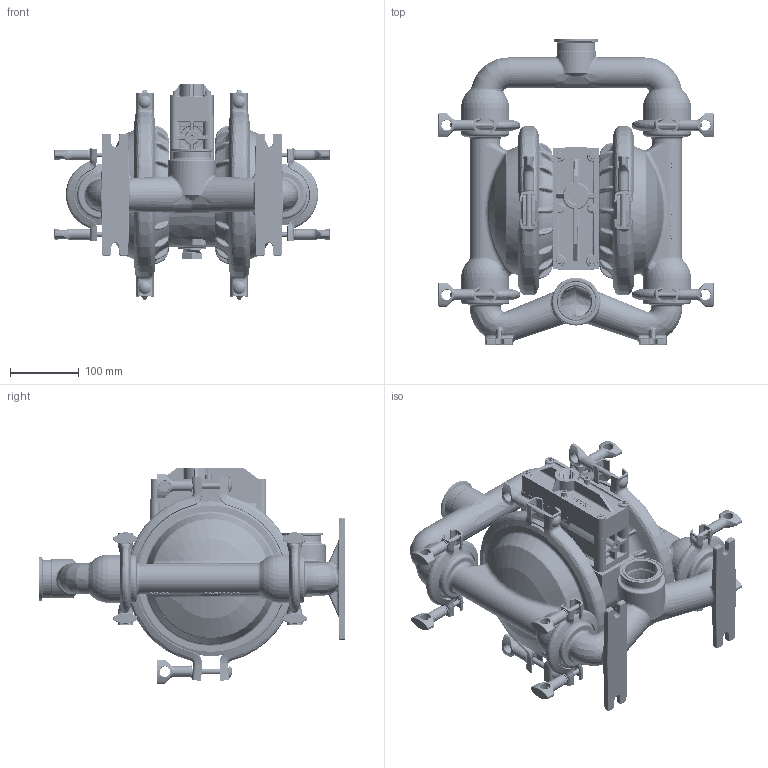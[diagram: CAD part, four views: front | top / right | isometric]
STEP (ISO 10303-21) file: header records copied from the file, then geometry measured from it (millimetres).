
FILE_DESCRIPTION((''),'2;1');
FILE_NAME('P4_SSAPP_0070_SW0001','2019-09-12T10:55:32',('10013162'),(''),'CREO PARAMETRIC BY PTC INC, 2018500','CREO PARAMETRIC BY PTC INC, 2018500','');
FILE_SCHEMA(('CONFIG_CONTROL_DESIGN'));
Products named in the file (1): P4_SSAPP_0070_SW0001
Bounding box: 400.81 x 444.8 x 313.86 mm (x, y, z)
Volume: 4531792.5 mm3; surface area: 1311194.4 mm2
Topology: 14 solids, 14 shells, 8599 faces, 22152 edges, 13834 vertices
Faces by surface type: plane 4656, bspline 1568, cylinder 1218, torus 468, cone 462, sphere 155, extrusion 72
Entity records: 611855 total; most frequent: CARTESIAN_POINT 415484, ORIENTED_EDGE 44240, DIRECTION 35429, EDGE_CURVE 22120, VERTEX_POINT 13834, VECTOR 13045, LINE 12973, AXIS2_PLACEMENT_3D 11192
